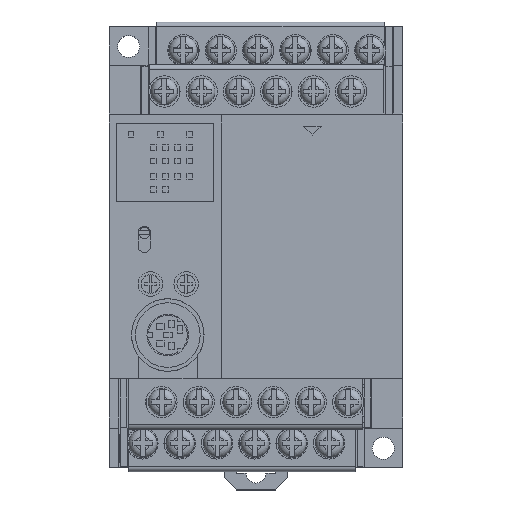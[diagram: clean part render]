
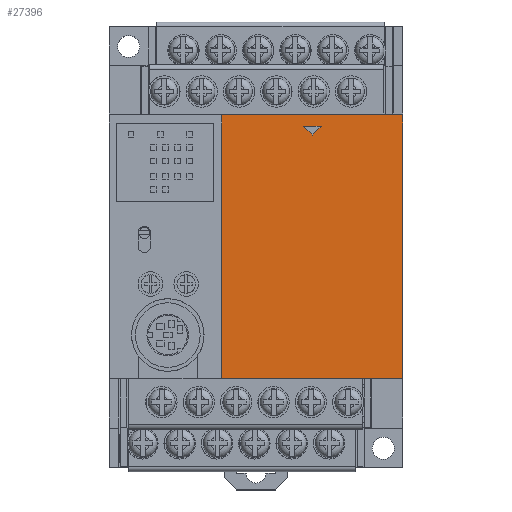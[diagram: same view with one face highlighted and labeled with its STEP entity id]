
A CAD part, top view. The second image highlights one B-rep face of the part: STEP entity #27396.
In plain terms, the highlighted planar face has unit normal (0, 0, 1).
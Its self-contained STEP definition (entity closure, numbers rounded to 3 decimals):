
#27299 = VERTEX_POINT ( 'NONE', #79990 ) ;
#27301 = EDGE_CURVE ( 'NONE', #27343, #27299, #79988, .T. ) ;
#27331 = EDGE_CURVE ( 'NONE', #27385, #27408, #80074, .T. ) ;
#27334 = ORIENTED_EDGE ( 'NONE', *, *, #27301, .T. ) ;
#27339 = EDGE_CURVE ( 'NONE', #27363, #27343, #80118, .T. ) ;
#27340 = ORIENTED_EDGE ( 'NONE', *, *, #27388, .F. ) ;
#27341 = VERTEX_POINT ( 'NONE', #80114 ) ;
#27343 = VERTEX_POINT ( 'NONE', #80113 ) ;
#27346 = EDGE_CURVE ( 'NONE', #27360, #27363, #80111, .T. ) ;
#27360 = VERTEX_POINT ( 'NONE', #80164 ) ;
#27363 = VERTEX_POINT ( 'NONE', #80159 ) ;
#27365 = EDGE_CURVE ( 'NONE', #27299, #27360, #80158, .T. ) ;
#27385 = VERTEX_POINT ( 'NONE', #80282 ) ;
#27386 = ORIENTED_EDGE ( 'NONE', *, *, #27407, .F. ) ;
#27388 = EDGE_CURVE ( 'NONE', #27341, #27385, #80281, .T. ) ;
#27390 = EDGE_LOOP ( 'NONE', ( #27334, #27391, #27392, #27405 ) ) ;
#27391 = ORIENTED_EDGE ( 'NONE', *, *, #27365, .T. ) ;
#27392 = ORIENTED_EDGE ( 'NONE', *, *, #27346, .T. ) ;
#27396 = ADVANCED_FACE ( 'NONE', ( #80306, #80305 ), #80346, .T. ) ;
#27397 = EDGE_LOOP ( 'NONE', ( #27340, #27386, #27398 ) ) ;
#27398 = ORIENTED_EDGE ( 'NONE', *, *, #27331, .F. ) ;
#27405 = ORIENTED_EDGE ( 'NONE', *, *, #27339, .T. ) ;
#27407 = EDGE_CURVE ( 'NONE', #27408, #27341, #80336, .T. ) ;
#27408 = VERTEX_POINT ( 'NONE', #80332 ) ;
#79985 = DIRECTION ( 'NONE',  ( 0., -1., 0. ) ) ;
#79986 = VECTOR ( 'NONE', #79985, 1000. ) ;
#79987 = CARTESIAN_POINT ( 'NONE',  ( -7., 26.9, 79. ) ) ;
#79988 = LINE ( 'NONE', #79987, #79986 ) ;
#79990 = CARTESIAN_POINT ( 'NONE',  ( -7., -26.9, 79. ) ) ;
#80071 = DIRECTION ( 'NONE',  ( -1., 0., 0. ) ) ;
#80072 = VECTOR ( 'NONE', #80071, 1000. ) ;
#80073 = CARTESIAN_POINT ( 'NONE',  ( 9.7, 24.6, 79. ) ) ;
#80074 = LINE ( 'NONE', #80073, #80072 ) ;
#80108 = DIRECTION ( 'NONE',  ( 0., 1., 0. ) ) ;
#80109 = VECTOR ( 'NONE', #80108, 1000. ) ;
#80110 = CARTESIAN_POINT ( 'NONE',  ( 30., 26.9, 79. ) ) ;
#80111 = LINE ( 'NONE', #80110, #80109 ) ;
#80113 = CARTESIAN_POINT ( 'NONE',  ( -7., 26.9, 79. ) ) ;
#80114 = CARTESIAN_POINT ( 'NONE',  ( 11.5, 22.8, 79. ) ) ;
#80115 = DIRECTION ( 'NONE',  ( -1., 0., 0. ) ) ;
#80116 = VECTOR ( 'NONE', #80115, 1000. ) ;
#80117 = CARTESIAN_POINT ( 'NONE',  ( -7., 26.9, 79. ) ) ;
#80118 = LINE ( 'NONE', #80117, #80116 ) ;
#80155 = DIRECTION ( 'NONE',  ( 1., 0., 0. ) ) ;
#80156 = VECTOR ( 'NONE', #80155, 1000. ) ;
#80157 = CARTESIAN_POINT ( 'NONE',  ( -7., -26.9, 79. ) ) ;
#80158 = LINE ( 'NONE', #80157, #80156 ) ;
#80159 = CARTESIAN_POINT ( 'NONE',  ( 30., 26.9, 79. ) ) ;
#80164 = CARTESIAN_POINT ( 'NONE',  ( 30., -26.9, 79. ) ) ;
#80278 = DIRECTION ( 'NONE',  ( 0.707, 0.707, 0. ) ) ;
#80279 = VECTOR ( 'NONE', #80278, 1000. ) ;
#80280 = CARTESIAN_POINT ( 'NONE',  ( 13.3, 24.6, 79. ) ) ;
#80281 = LINE ( 'NONE', #80280, #80279 ) ;
#80282 = CARTESIAN_POINT ( 'NONE',  ( 13.3, 24.6, 79. ) ) ;
#80305 = FACE_OUTER_BOUND ( 'NONE', #27390, .T. ) ;
#80306 = FACE_BOUND ( 'NONE', #27397, .T. ) ;
#80332 = CARTESIAN_POINT ( 'NONE',  ( 9.7, 24.6, 79. ) ) ;
#80333 = DIRECTION ( 'NONE',  ( 0.707, -0.707, 0. ) ) ;
#80334 = VECTOR ( 'NONE', #80333, 1000. ) ;
#80335 = CARTESIAN_POINT ( 'NONE',  ( 11.5, 22.8, 79. ) ) ;
#80336 = LINE ( 'NONE', #80335, #80334 ) ;
#80341 = DIRECTION ( 'NONE',  ( 1., 0., 0. ) ) ;
#80342 = DIRECTION ( 'NONE',  ( 0., 0., 1. ) ) ;
#80343 = CARTESIAN_POINT ( 'NONE',  ( -7., -26.9, 79. ) ) ;
#80344 = AXIS2_PLACEMENT_3D ( 'NONE', #80343, #80342, #80341 ) ;
#80346 = PLANE ( 'NONE',  #80344 ) ;
